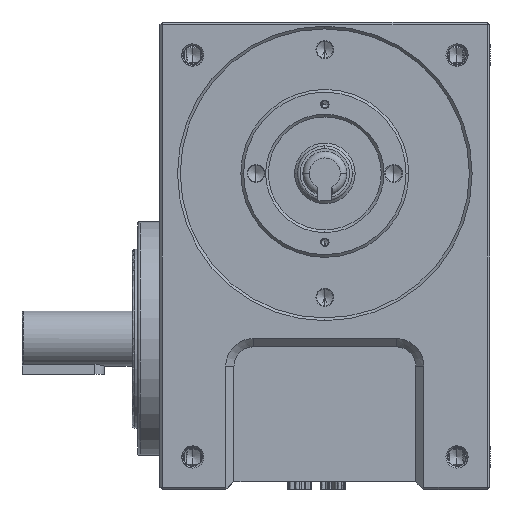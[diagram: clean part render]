
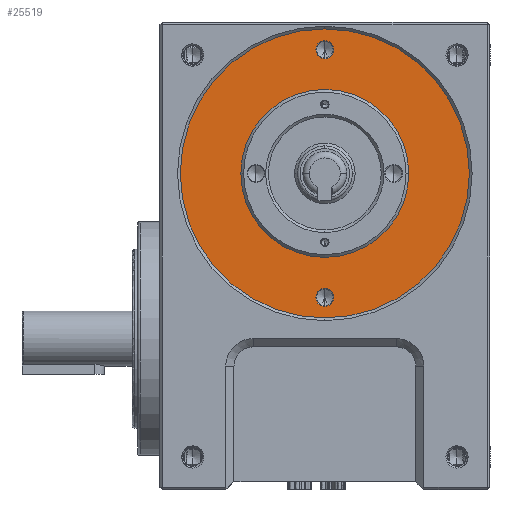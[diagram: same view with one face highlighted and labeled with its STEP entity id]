
A CAD part, left-side view. The second image highlights one B-rep face of the part: STEP entity #25519.
In plain terms, the highlighted planar face has unit normal (-1, 0, 0).
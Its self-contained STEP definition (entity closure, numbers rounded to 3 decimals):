
#3936 = AXIS2_PLACEMENT_3D ( 'NONE', #60481, #153883, #73889 ) ;
#4638 = VERTEX_POINT ( 'NONE', #108090 ) ;
#6339 = ORIENTED_EDGE ( 'NONE', *, *, #74165, .T. ) ;
#8766 = EDGE_CURVE ( 'NONE', #32196, #161548, #38410, .T. ) ;
#8933 = VERTEX_POINT ( 'NONE', #71645 ) ;
#10949 = EDGE_CURVE ( 'NONE', #140636, #8933, #57036, .T. ) ;
#11441 = DIRECTION ( 'NONE',  ( 1., 0., 0. ) ) ;
#16425 = EDGE_CURVE ( 'NONE', #8933, #140636, #123626, .T. ) ;
#18133 = CIRCLE ( 'NONE', #142501, 52.5 ) ;
#19954 = EDGE_CURVE ( 'NONE', #4638, #74218, #89761, .T. ) ;
#20747 = CARTESIAN_POINT ( 'NONE',  ( -54., 60., 167.5 ) ) ;
#25325 = AXIS2_PLACEMENT_3D ( 'NONE', #91404, #11441, #104859 ) ;
#25519 = ADVANCED_FACE ( 'NONE', ( #164282, #57771, #89107, #128846 ), #78313, .T. ) ;
#30807 = DIRECTION ( 'NONE',  ( 1., 0., 0. ) ) ;
#32196 = VERTEX_POINT ( 'NONE', #162974 ) ;
#32825 = CARTESIAN_POINT ( 'NONE',  ( -54., 60., 70. ) ) ;
#38410 = CIRCLE ( 'NONE', #131519, 3.25 ) ;
#42601 = CIRCLE ( 'NONE', #171588, 3.25 ) ;
#43827 = EDGE_LOOP ( 'NONE', ( #6339, #163543 ) ) ;
#43850 = CARTESIAN_POINT ( 'NONE',  ( -54., 0., 0. ) ) ;
#46263 = DIRECTION ( 'NONE',  ( 0., 0., 1. ) ) ;
#51531 = EDGE_LOOP ( 'NONE', ( #94029, #105856 ) ) ;
#55100 = CARTESIAN_POINT ( 'NONE',  ( -54., 60., 115. ) ) ;
#56553 = EDGE_CURVE ( 'NONE', #57746, #163880, #135066, .T. ) ;
#57036 = CIRCLE ( 'NONE', #25325, 3.25 ) ;
#57281 = DIRECTION ( 'NONE',  ( 0., 0., 1. ) ) ;
#57746 = VERTEX_POINT ( 'NONE', #57821 ) ;
#57771 = FACE_BOUND ( 'NONE', #108247, .T. ) ;
#57821 = CARTESIAN_POINT ( 'NONE',  ( -54., 90.5, 115. ) ) ;
#60481 = CARTESIAN_POINT ( 'NONE',  ( -54., 60., 115. ) ) ;
#66849 = DIRECTION ( 'NONE',  ( 1., 0., 0. ) ) ;
#68517 = DIRECTION ( 'NONE',  ( 0., 1., 0. ) ) ;
#70219 = CARTESIAN_POINT ( 'NONE',  ( -54., 60., 115. ) ) ;
#71645 = CARTESIAN_POINT ( 'NONE',  ( -54., 60., 73.25 ) ) ;
#73080 = CARTESIAN_POINT ( 'NONE',  ( -54., 60., 66.75 ) ) ;
#73300 = CARTESIAN_POINT ( 'NONE',  ( -54., 60., 115. ) ) ;
#73889 = DIRECTION ( 'NONE',  ( 0., 0., 1. ) ) ;
#74165 = EDGE_CURVE ( 'NONE', #74218, #4638, #18133, .T. ) ;
#74218 = VERTEX_POINT ( 'NONE', #20747 ) ;
#78313 = PLANE ( 'NONE',  #144006 ) ;
#78563 = ORIENTED_EDGE ( 'NONE', *, *, #81985, .T. ) ;
#81985 = EDGE_CURVE ( 'NONE', #163880, #57746, #155166, .T. ) ;
#83698 = DIRECTION ( 'NONE',  ( 0., 1., 0. ) ) ;
#86737 = DIRECTION ( 'NONE',  ( 0., 0., 1. ) ) ;
#89107 = FACE_BOUND ( 'NONE', #146439, .T. ) ;
#89761 = CIRCLE ( 'NONE', #3936, 52.5 ) ;
#91404 = CARTESIAN_POINT ( 'NONE',  ( -54., 60., 70. ) ) ;
#94029 = ORIENTED_EDGE ( 'NONE', *, *, #132790, .T. ) ;
#94351 = AXIS2_PLACEMENT_3D ( 'NONE', #70219, #163614, #83698 ) ;
#101327 = ORIENTED_EDGE ( 'NONE', *, *, #16425, .T. ) ;
#104859 = DIRECTION ( 'NONE',  ( 0., 0., 1. ) ) ;
#105856 = ORIENTED_EDGE ( 'NONE', *, *, #8766, .T. ) ;
#108090 = CARTESIAN_POINT ( 'NONE',  ( -54., 60., 62.5 ) ) ;
#108247 = EDGE_LOOP ( 'NONE', ( #101327, #114759 ) ) ;
#110818 = CARTESIAN_POINT ( 'NONE',  ( -54., 60., 159.929 ) ) ;
#114759 = ORIENTED_EDGE ( 'NONE', *, *, #10949, .T. ) ;
#116279 = ORIENTED_EDGE ( 'NONE', *, *, #56553, .T. ) ;
#123626 = CIRCLE ( 'NONE', #167954, 3.25 ) ;
#124249 = DIRECTION ( 'NONE',  ( 0., -1., 0. ) ) ;
#126295 = DIRECTION ( 'NONE',  ( 1., 0., 0. ) ) ;
#128846 = FACE_OUTER_BOUND ( 'NONE', #43827, .T. ) ;
#131519 = AXIS2_PLACEMENT_3D ( 'NONE', #110818, #30807, #124249 ) ;
#132790 = EDGE_CURVE ( 'NONE', #161548, #32196, #42601, .T. ) ;
#135066 = CIRCLE ( 'NONE', #94351, 30.5 ) ;
#137271 = DIRECTION ( 'NONE',  ( -1., 0., 0. ) ) ;
#140636 = VERTEX_POINT ( 'NONE', #73080 ) ;
#142501 = AXIS2_PLACEMENT_3D ( 'NONE', #73300, #166679, #86737 ) ;
#143275 = CARTESIAN_POINT ( 'NONE',  ( -54., 29.5, 115. ) ) ;
#144006 = AXIS2_PLACEMENT_3D ( 'NONE', #43850, #137271, #57281 ) ;
#146439 = EDGE_LOOP ( 'NONE', ( #116279, #78563 ) ) ;
#146828 = CARTESIAN_POINT ( 'NONE',  ( -54., 60., 159.929 ) ) ;
#148109 = AXIS2_PLACEMENT_3D ( 'NONE', #55100, #148497, #68517 ) ;
#148497 = DIRECTION ( 'NONE',  ( 1., 0., 0. ) ) ;
#153883 = DIRECTION ( 'NONE',  ( -1., 0., 0. ) ) ;
#155166 = CIRCLE ( 'NONE', #148109, 30.5 ) ;
#155353 = CARTESIAN_POINT ( 'NONE',  ( -54., 56.75, 159.929 ) ) ;
#160244 = DIRECTION ( 'NONE',  ( 0., -1., 0. ) ) ;
#161548 = VERTEX_POINT ( 'NONE', #155353 ) ;
#162974 = CARTESIAN_POINT ( 'NONE',  ( -54., 63.25, 159.929 ) ) ;
#163543 = ORIENTED_EDGE ( 'NONE', *, *, #19954, .T. ) ;
#163614 = DIRECTION ( 'NONE',  ( 1., 0., 0. ) ) ;
#163880 = VERTEX_POINT ( 'NONE', #143275 ) ;
#164282 = FACE_BOUND ( 'NONE', #51531, .T. ) ;
#166679 = DIRECTION ( 'NONE',  ( -1., 0., 0. ) ) ;
#167954 = AXIS2_PLACEMENT_3D ( 'NONE', #32825, #126295, #46263 ) ;
#171588 = AXIS2_PLACEMENT_3D ( 'NONE', #146828, #66849, #160244 ) ;
